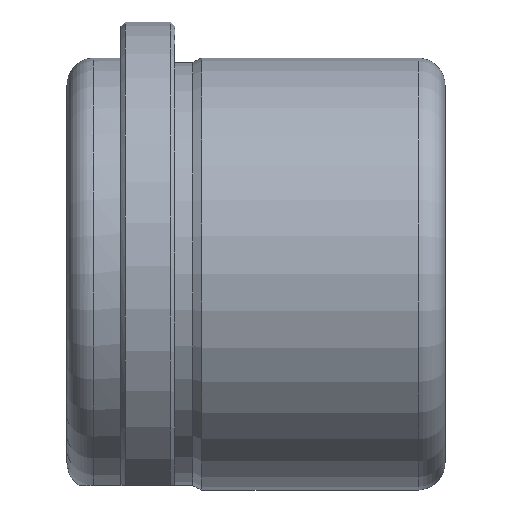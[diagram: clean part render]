
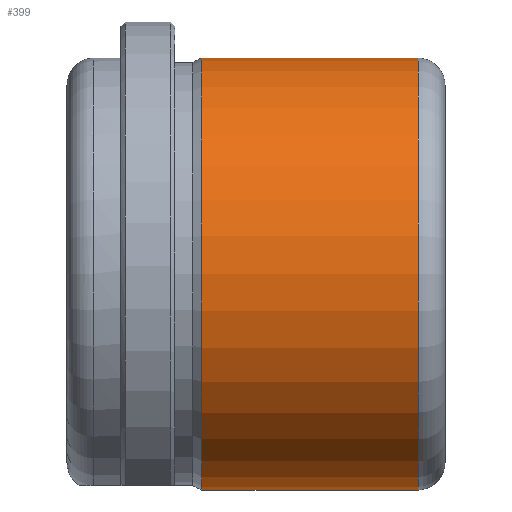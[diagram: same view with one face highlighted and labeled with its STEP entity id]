
A CAD part, top view. The second image highlights one B-rep face of the part: STEP entity #399.
In plain terms, the highlighted cylindrical face has radius 24 mm (diameter 48 mm), a full revolution.
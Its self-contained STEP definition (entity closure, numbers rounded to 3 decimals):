
#42=LINE('',#609,#60);
#60=VECTOR('',#500,24.);
#78=CYLINDRICAL_SURFACE('',#445,24.);
#88=FACE_OUTER_BOUND('',#109,.T.);
#109=EDGE_LOOP('',(#258,#259,#260,#261,#262));
#134=CIRCLE('',#443,24.);
#135=CIRCLE('',#444,24.);
#136=CIRCLE('',#446,24.);
#158=VERTEX_POINT('',#602);
#159=VERTEX_POINT('',#604);
#160=VERTEX_POINT('',#608);
#196=EDGE_CURVE('',#158,#159,#134,.T.);
#197=EDGE_CURVE('',#159,#158,#135,.T.);
#198=EDGE_CURVE('',#159,#160,#42,.T.);
#199=EDGE_CURVE('',#160,#160,#136,.T.);
#258=ORIENTED_EDGE('',*,*,#197,.F.);
#259=ORIENTED_EDGE('',*,*,#198,.T.);
#260=ORIENTED_EDGE('',*,*,#199,.T.);
#261=ORIENTED_EDGE('',*,*,#198,.F.);
#262=ORIENTED_EDGE('',*,*,#196,.F.);
#399=ADVANCED_FACE('',(#88),#78,.T.);
#443=AXIS2_PLACEMENT_3D('',#605,#494,#495);
#444=AXIS2_PLACEMENT_3D('',#606,#496,#497);
#445=AXIS2_PLACEMENT_3D('',#607,#498,#499);
#446=AXIS2_PLACEMENT_3D('',#610,#501,#502);
#494=DIRECTION('center_axis',(1.,0.,0.));
#495=DIRECTION('ref_axis',(0.,-1.,0.));
#496=DIRECTION('center_axis',(1.,0.,0.));
#497=DIRECTION('ref_axis',(0.,-1.,0.));
#498=DIRECTION('center_axis',(1.,0.,0.));
#499=DIRECTION('ref_axis',(0.,1.,0.));
#500=DIRECTION('',(-1.,0.,0.));
#501=DIRECTION('center_axis',(1.,0.,0.));
#502=DIRECTION('ref_axis',(0.,0.,-1.));
#602=CARTESIAN_POINT('',(39.,0.,24.));
#604=CARTESIAN_POINT('',(39.,-24.,0.));
#605=CARTESIAN_POINT('Origin',(39.,0.,0.));
#606=CARTESIAN_POINT('Origin',(39.,0.,0.));
#607=CARTESIAN_POINT('Origin',(28.5,0.,0.));
#608=CARTESIAN_POINT('',(15.,-24.,0.));
#609=CARTESIAN_POINT('',(28.5,-24.,0.));
#610=CARTESIAN_POINT('Origin',(15.,0.,0.));
